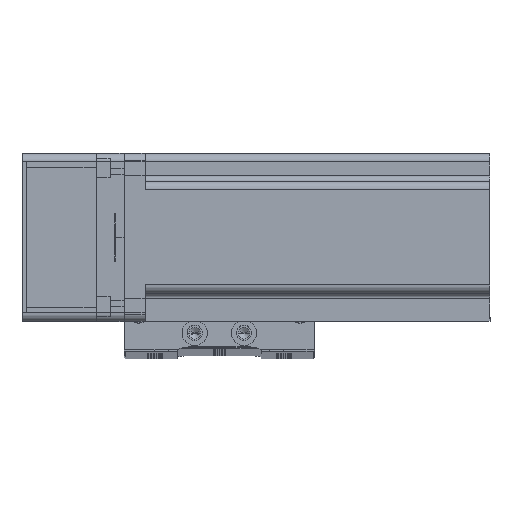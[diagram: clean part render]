
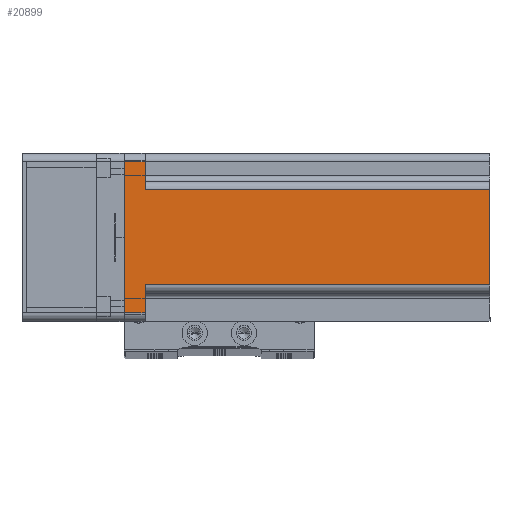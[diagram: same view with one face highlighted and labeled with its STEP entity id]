
A CAD part, top view. The second image highlights one B-rep face of the part: STEP entity #20899.
In plain terms, the highlighted planar face has unit normal (0, 0, 1) as drawn and (0, 1, 0) by its records, which use the part's own axes.
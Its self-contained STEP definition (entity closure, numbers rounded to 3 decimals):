
#855 = DIRECTION ( 'NONE',  ( -1., 0., 0. ) ) ;
#1719 = VERTEX_POINT ( 'NONE', #14306 ) ;
#2133 = LINE ( 'NONE', #27755, #38402 ) ;
#3338 = DIRECTION ( 'NONE',  ( -1., 0., 0. ) ) ;
#3414 = ORIENTED_EDGE ( 'NONE', *, *, #26717, .T. ) ;
#4826 = EDGE_CURVE ( 'NONE', #1719, #26127, #56701, .T. ) ;
#6553 = VECTOR ( 'NONE', #3338, 1000. ) ;
#8823 = VECTOR ( 'NONE', #27807, 1000. ) ;
#8909 = ORIENTED_EDGE ( 'NONE', *, *, #35735, .T. ) ;
#9814 = CARTESIAN_POINT ( 'NONE',  ( 17., 30., 130.7 ) ) ;
#10500 = CARTESIAN_POINT ( 'NONE',  ( 20., 30., 7.5 ) ) ;
#10765 = LINE ( 'NONE', #51793, #30013 ) ;
#13348 = DIRECTION ( 'NONE',  ( 0., 0., 1. ) ) ;
#13420 = EDGE_CURVE ( 'NONE', #13904, #1719, #2133, .T. ) ;
#13904 = VERTEX_POINT ( 'NONE', #31576 ) ;
#14052 = DIRECTION ( 'NONE',  ( 0., 0., -1. ) ) ;
#14306 = CARTESIAN_POINT ( 'NONE',  ( -17., 30., 7.5 ) ) ;
#16074 = CARTESIAN_POINT ( 'NONE',  ( -17., 30., 130.7 ) ) ;
#16126 = VERTEX_POINT ( 'NONE', #52487 ) ;
#18471 = CARTESIAN_POINT ( 'NONE',  ( 30., 30., 130.7 ) ) ;
#19053 = VECTOR ( 'NONE', #13348, 1000. ) ;
#20217 = ORIENTED_EDGE ( 'NONE', *, *, #47441, .T. ) ;
#20509 = LINE ( 'NONE', #31941, #19053 ) ;
#20785 = DIRECTION ( 'NONE',  ( 0., 0., 1. ) ) ;
#20899 = ADVANCED_FACE ( 'NONE', ( #38368 ), #60804, .F. ) ;
#21370 = VERTEX_POINT ( 'NONE', #55330 ) ;
#23219 = DIRECTION ( 'NONE',  ( 1., 0., 0. ) ) ;
#25639 = VECTOR ( 'NONE', #855, 1000. ) ;
#26127 = VERTEX_POINT ( 'NONE', #27811 ) ;
#26223 = CARTESIAN_POINT ( 'NONE',  ( 27., 30., 7.5 ) ) ;
#26717 = EDGE_CURVE ( 'NONE', #61302, #58680, #10765, .T. ) ;
#27027 = VERTEX_POINT ( 'NONE', #26223 ) ;
#27141 = LINE ( 'NONE', #10500, #25639 ) ;
#27755 = CARTESIAN_POINT ( 'NONE',  ( -20., 30., 7.5 ) ) ;
#27807 = DIRECTION ( 'NONE',  ( 0., 0., -1. ) ) ;
#27811 = CARTESIAN_POINT ( 'NONE',  ( -17., 30., 130.7 ) ) ;
#29016 = ORIENTED_EDGE ( 'NONE', *, *, #43384, .F. ) ;
#29184 = EDGE_CURVE ( 'NONE', #16126, #21370, #44214, .T. ) ;
#30013 = VECTOR ( 'NONE', #14052, 1000. ) ;
#31576 = CARTESIAN_POINT ( 'NONE',  ( -27., 30., 7.5 ) ) ;
#31626 = VECTOR ( 'NONE', #20785, 1000. ) ;
#31941 = CARTESIAN_POINT ( 'NONE',  ( -27., 30., 130.7 ) ) ;
#33972 = LINE ( 'NONE', #60802, #8823 ) ;
#34981 = ORIENTED_EDGE ( 'NONE', *, *, #54878, .F. ) ;
#35735 = EDGE_CURVE ( 'NONE', #21370, #13904, #20509, .T. ) ;
#38368 = FACE_OUTER_BOUND ( 'NONE', #46154, .T. ) ;
#38402 = VECTOR ( 'NONE', #60755, 1000. ) ;
#43384 = EDGE_CURVE ( 'NONE', #27027, #58680, #27141, .T. ) ;
#44214 = LINE ( 'NONE', #60011, #6553 ) ;
#46154 = EDGE_LOOP ( 'NONE', ( #52742, #54140, #34981, #3414, #29016, #20217, #48706, #8909 ) ) ;
#47441 = EDGE_CURVE ( 'NONE', #27027, #16126, #33972, .T. ) ;
#48706 = ORIENTED_EDGE ( 'NONE', *, *, #29184, .T. ) ;
#49866 = CARTESIAN_POINT ( 'NONE',  ( 17., 30., 7.5 ) ) ;
#50263 = CARTESIAN_POINT ( 'NONE',  ( 30., 30., 130.7 ) ) ;
#50558 = AXIS2_PLACEMENT_3D ( 'NONE', #18471, #51446, #23219 ) ;
#51446 = DIRECTION ( 'NONE',  ( 0., -1., 0. ) ) ;
#51793 = CARTESIAN_POINT ( 'NONE',  ( 17., 30., 130.7 ) ) ;
#52487 = CARTESIAN_POINT ( 'NONE',  ( 27., 30., 0. ) ) ;
#52742 = ORIENTED_EDGE ( 'NONE', *, *, #13420, .T. ) ;
#53250 = VECTOR ( 'NONE', #55043, 1000. ) ;
#54140 = ORIENTED_EDGE ( 'NONE', *, *, #4826, .T. ) ;
#54733 = LINE ( 'NONE', #50263, #53250 ) ;
#54878 = EDGE_CURVE ( 'NONE', #61302, #26127, #54733, .T. ) ;
#55043 = DIRECTION ( 'NONE',  ( -1., 0., 0. ) ) ;
#55330 = CARTESIAN_POINT ( 'NONE',  ( -27., 30., 0. ) ) ;
#56701 = LINE ( 'NONE', #16074, #31626 ) ;
#58680 = VERTEX_POINT ( 'NONE', #49866 ) ;
#60011 = CARTESIAN_POINT ( 'NONE',  ( 30., 30., 0. ) ) ;
#60755 = DIRECTION ( 'NONE',  ( 1., 0., 0. ) ) ;
#60802 = CARTESIAN_POINT ( 'NONE',  ( 27., 30., 130.7 ) ) ;
#60804 = PLANE ( 'NONE',  #50558 ) ;
#61302 = VERTEX_POINT ( 'NONE', #9814 ) ;
